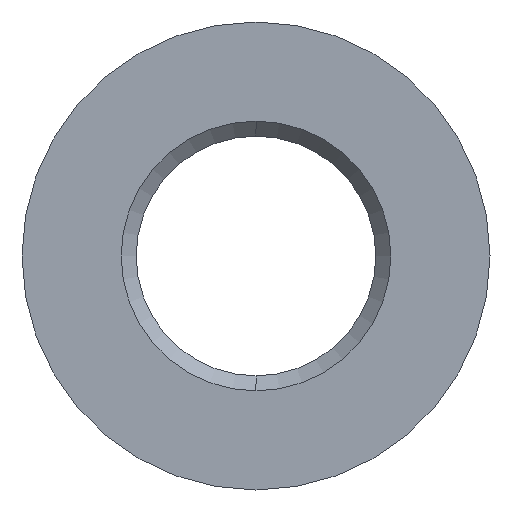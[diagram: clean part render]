
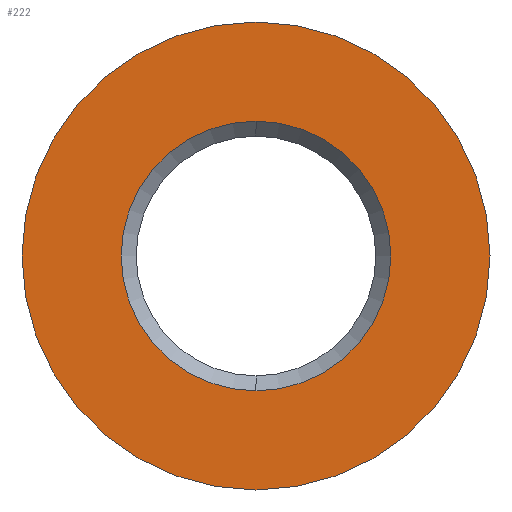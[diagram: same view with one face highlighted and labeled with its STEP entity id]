
A CAD part, left-side view. The second image highlights one B-rep face of the part: STEP entity #222.
In plain terms, the highlighted planar face has unit normal (-1, 0, 0).
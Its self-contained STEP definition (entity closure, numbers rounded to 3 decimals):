
#179 = VERTEX_POINT ( 'NONE', #770 ) ;
#181 = EDGE_CURVE ( 'NONE', #179, #182, #769, .T. ) ;
#182 = VERTEX_POINT ( 'NONE', #764 ) ;
#221 = EDGE_CURVE ( 'NONE', #182, #179, #801, .T. ) ;
#222 = ADVANCED_FACE ( 'NONE', ( #796, #795 ), #794, .F. ) ;
#223 = EDGE_LOOP ( 'NONE', ( #248, #249 ) ) ;
#248 = ORIENTED_EDGE ( 'NONE', *, *, #336, .T. ) ;
#249 = ORIENTED_EDGE ( 'NONE', *, *, #250, .T. ) ;
#250 = EDGE_CURVE ( 'NONE', #307, #337, #748, .T. ) ;
#251 = EDGE_LOOP ( 'NONE', ( #252, #253 ) ) ;
#252 = ORIENTED_EDGE ( 'NONE', *, *, #221, .F. ) ;
#253 = ORIENTED_EDGE ( 'NONE', *, *, #181, .F. ) ;
#307 = VERTEX_POINT ( 'NONE', #991 ) ;
#336 = EDGE_CURVE ( 'NONE', #337, #307, #965, .T. ) ;
#337 = VERTEX_POINT ( 'NONE', #960 ) ;
#745 = DIRECTION ( 'NONE',  ( 1., 0., 0. ) ) ;
#746 = CARTESIAN_POINT ( 'NONE',  ( 0., 0., 0. ) ) ;
#747 = AXIS2_PLACEMENT_3D ( 'NONE', #746, #745, #787 ) ;
#748 = CIRCLE ( 'NONE', #747, 2.7 ) ;
#764 = CARTESIAN_POINT ( 'NONE',  ( 0., 0., 4.685 ) ) ;
#765 = DIRECTION ( 'NONE',  ( 0., 0., -1. ) ) ;
#766 = DIRECTION ( 'NONE',  ( 1., 0., 0. ) ) ;
#767 = CARTESIAN_POINT ( 'NONE',  ( 0., 0., 0. ) ) ;
#768 = AXIS2_PLACEMENT_3D ( 'NONE', #767, #766, #765 ) ;
#769 = CIRCLE ( 'NONE', #768, 4.685 ) ;
#770 = CARTESIAN_POINT ( 'NONE',  ( 0., 0., -4.685 ) ) ;
#787 = DIRECTION ( 'NONE',  ( 0., 0., -1. ) ) ;
#789 = DIRECTION ( 'NONE',  ( 0., 0., -1. ) ) ;
#790 = DIRECTION ( 'NONE',  ( 1., 0., 0. ) ) ;
#791 = AXIS2_PLACEMENT_3D ( 'NONE', #793, #790, #789 ) ;
#793 = CARTESIAN_POINT ( 'NONE',  ( 0., 0., 0. ) ) ;
#794 = PLANE ( 'NONE',  #791 ) ;
#795 = FACE_OUTER_BOUND ( 'NONE', #251, .T. ) ;
#796 = FACE_BOUND ( 'NONE', #223, .T. ) ;
#797 = DIRECTION ( 'NONE',  ( 0., 0., -1. ) ) ;
#798 = DIRECTION ( 'NONE',  ( 1., 0., 0. ) ) ;
#799 = CARTESIAN_POINT ( 'NONE',  ( 0., 0., 0. ) ) ;
#800 = AXIS2_PLACEMENT_3D ( 'NONE', #799, #798, #797 ) ;
#801 = CIRCLE ( 'NONE', #800, 4.685 ) ;
#960 = CARTESIAN_POINT ( 'NONE',  ( 0., 0., 2.7 ) ) ;
#961 = DIRECTION ( 'NONE',  ( 0., 0., -1. ) ) ;
#962 = DIRECTION ( 'NONE',  ( 1., 0., 0. ) ) ;
#963 = CARTESIAN_POINT ( 'NONE',  ( 0., 0., 0. ) ) ;
#964 = AXIS2_PLACEMENT_3D ( 'NONE', #963, #962, #961 ) ;
#965 = CIRCLE ( 'NONE', #964, 2.7 ) ;
#991 = CARTESIAN_POINT ( 'NONE',  ( 0., 0., -2.7 ) ) ;
